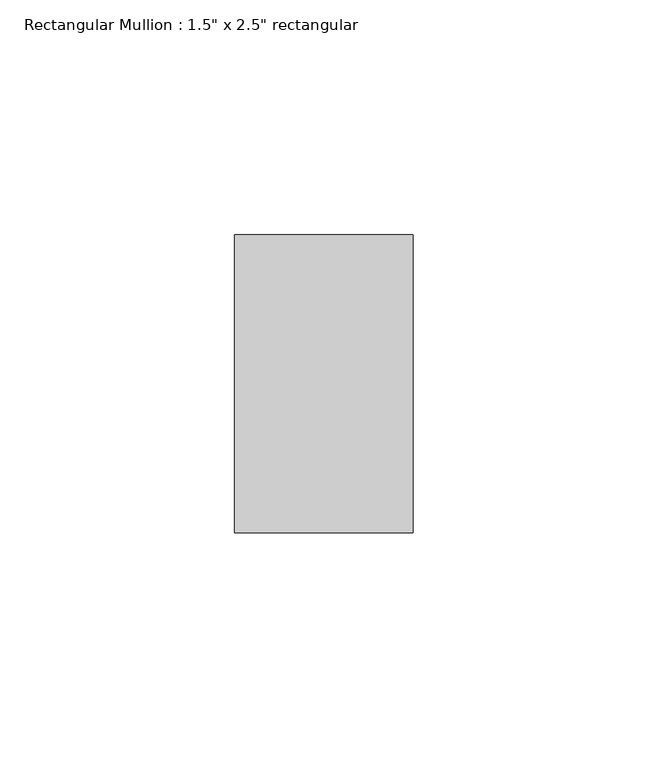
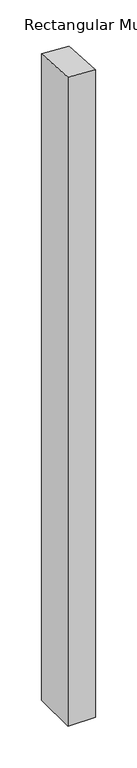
"""IFC4 building model written with IfcOpenShell, lengths in millimetres: member geometry."""

from ifc_helpers import new_model, si_unit, origin, place, context, project, spatial, faceted_brep, source, transform, mapped, element, save


def member_a30be3ee(model_context):
    return source(origin(), model_context, "Body", "Brep", [
        faceted_brep([(0.0, 31.75, -946.2570447), (0.0, -31.75, -946.2570447), (-38.1, -31.75, -946.2570447), (-38.1, 31.75, -946.2570447), (-38.1, 31.75, 0.4177563), (0.0, 31.75, -2.1470263), (-38.1, -31.75, 4.7118089), (0.0, -31.75, 2.1470263)], [[[0, 1, 2, 3]], [[4, 5, 0, 3]], [[6, 4, 3, 2]], [[7, 6, 2, 1]], [[5, 7, 1, 0]], [[5, 4, 6, 7]]]),
    ])


if __name__ == "__main__":
    model = new_model("IFC4")
    model_context = context("Model", 3, world=origin())
    ifc_project = project(units=[si_unit("LENGTHUNIT", "METRE", prefix="MILLI")], contexts=[model_context])
    site = spatial("IfcSite", under=ifc_project)
    building = spatial("IfcBuilding", under=site)
    placement = place(None, origin())
    member_shape = member_a30be3ee(model_context)
    element("IfcMember", 1, ObjectType="Rectangular Mullion : 1.5\" x 2.5\" rectangular", at=placement, inside=building, context=model_context, shape_type="MappedRepresentation", body=[
        mapped(member_shape, transform((0.0, 0.0, 0.0), x_axis=(1.0, 0.0, 0.0), y_axis=(0.0, 1.0, 0.0), z_axis=(0.0, 0.0, 1.0))),
    ])
    save(model, "model.ifc")
